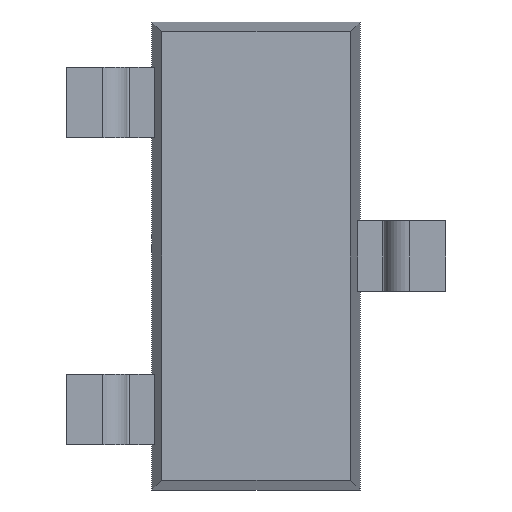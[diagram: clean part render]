
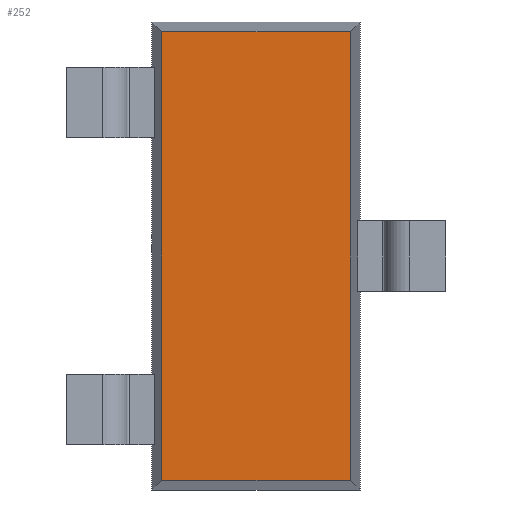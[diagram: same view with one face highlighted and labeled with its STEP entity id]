
A CAD part, front view. The second image highlights one B-rep face of the part: STEP entity #252.
In plain terms, the highlighted planar face has unit normal (0, -1, 0).
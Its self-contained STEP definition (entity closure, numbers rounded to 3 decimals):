
#7 = ORIENTED_EDGE ( 'NONE', *, *, #1299, .T. ) ;
#20 = VECTOR ( 'NONE', #1491, 1000. ) ;
#47 = DIRECTION ( 'NONE',  ( 1., 0., 0. ) ) ;
#54 = EDGE_CURVE ( 'NONE', #1165, #1406, #861, .T. ) ;
#108 = DIRECTION ( 'NONE',  ( 0., -1., 0. ) ) ;
#135 = EDGE_LOOP ( 'NONE', ( #938, #7, #1384, #1302 ) ) ;
#177 = CARTESIAN_POINT ( 'NONE',  ( 0.65, 0.1, -1.398 ) ) ;
#207 = EDGE_CURVE ( 'NONE', #1195, #1165, #848, .T. ) ;
#234 = PLANE ( 'NONE',  #459 ) ;
#252 = ADVANCED_FACE ( 'NONE', ( #1335 ), #234, .T. ) ;
#277 = CARTESIAN_POINT ( 'NONE',  ( 0.588, 0.1, 1.46 ) ) ;
#298 = LINE ( 'NONE', #177, #1006 ) ;
#413 = LINE ( 'NONE', #277, #20 ) ;
#459 = AXIS2_PLACEMENT_3D ( 'NONE', #730, #108, #1044 ) ;
#481 = CARTESIAN_POINT ( 'NONE',  ( -0.588, 0.1, -1.46 ) ) ;
#527 = VECTOR ( 'NONE', #822, 1000. ) ;
#730 = CARTESIAN_POINT ( 'NONE',  ( 0., 0.1, 0. ) ) ;
#812 = VERTEX_POINT ( 'NONE', #1121 ) ;
#822 = DIRECTION ( 'NONE',  ( -1., 0., 0. ) ) ;
#848 = LINE ( 'NONE', #1576, #527 ) ;
#861 = LINE ( 'NONE', #481, #1303 ) ;
#938 = ORIENTED_EDGE ( 'NONE', *, *, #54, .T. ) ;
#1006 = VECTOR ( 'NONE', #47, 1000. ) ;
#1044 = DIRECTION ( 'NONE',  ( 0., 0., -1. ) ) ;
#1063 = CARTESIAN_POINT ( 'NONE',  ( 0.588, 0.1, 1.398 ) ) ;
#1121 = CARTESIAN_POINT ( 'NONE',  ( 0.588, 0.1, -1.398 ) ) ;
#1165 = VERTEX_POINT ( 'NONE', #1253 ) ;
#1195 = VERTEX_POINT ( 'NONE', #1063 ) ;
#1253 = CARTESIAN_POINT ( 'NONE',  ( -0.588, 0.1, 1.398 ) ) ;
#1299 = EDGE_CURVE ( 'NONE', #1406, #812, #298, .T. ) ;
#1302 = ORIENTED_EDGE ( 'NONE', *, *, #207, .T. ) ;
#1303 = VECTOR ( 'NONE', #1344, 1000. ) ;
#1335 = FACE_OUTER_BOUND ( 'NONE', #135, .T. ) ;
#1344 = DIRECTION ( 'NONE',  ( 0., 0., -1. ) ) ;
#1384 = ORIENTED_EDGE ( 'NONE', *, *, #1494, .T. ) ;
#1406 = VERTEX_POINT ( 'NONE', #1463 ) ;
#1463 = CARTESIAN_POINT ( 'NONE',  ( -0.588, 0.1, -1.398 ) ) ;
#1491 = DIRECTION ( 'NONE',  ( 0., 0., 1. ) ) ;
#1494 = EDGE_CURVE ( 'NONE', #812, #1195, #413, .T. ) ;
#1576 = CARTESIAN_POINT ( 'NONE',  ( -0.65, 0.1, 1.398 ) ) ;
